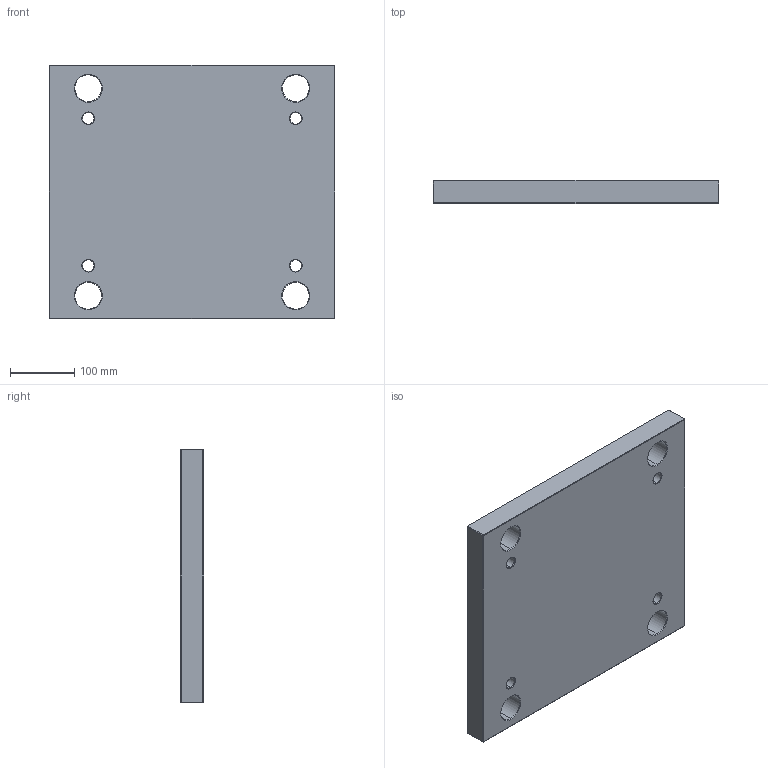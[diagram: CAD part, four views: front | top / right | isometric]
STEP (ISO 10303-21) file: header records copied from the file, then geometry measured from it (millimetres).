
FILE_DESCRIPTION (( 'STEP AP214' ), '1' );
FILE_NAME ('PBA-EU-396x396x36.STEP', '2020-03-10T16:00:38', ( 'August' ), ( '' ), 'SwSTEP 2.0', 'SolidWorks 2018', '' );
FILE_SCHEMA (( 'AUTOMOTIVE_DESIGN' ));
Length unit declared in the file: millimetre
Products named in the file (1): PBA-EU-396x396x36
Bounding box: 446 x 36 x 396 mm (x, y, z)
Volume: 6099552 mm3; surface area: 426707.9 mm2
Topology: 1 solids, 1 shells, 86 faces, 184 edges, 104 vertices
Faces by surface type: cone 32, plane 30, cylinder 24
Entity records: 2346 total; most frequent: DIRECTION 438, CARTESIAN_POINT 375, ORIENTED_EDGE 368, EDGE_CURVE 184, AXIS2_PLACEMENT_3D 167, EDGE_LOOP 106, VERTEX_POINT 104, LINE 104
